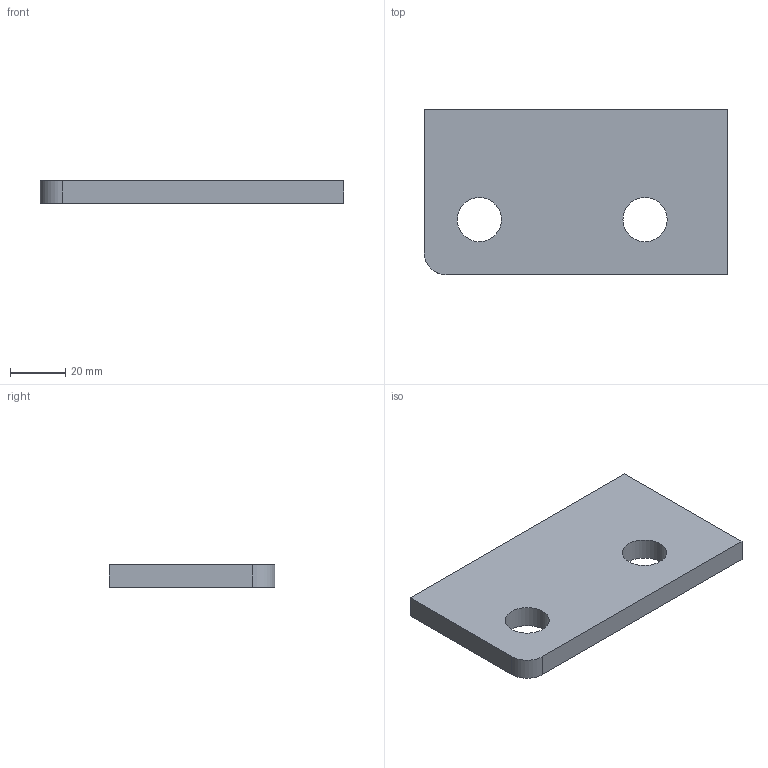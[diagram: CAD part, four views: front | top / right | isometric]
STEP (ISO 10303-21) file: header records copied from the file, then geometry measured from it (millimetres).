
FILE_DESCRIPTION(/* description */ (''),/* implementation_level */ '2;1');
FILE_NAME(/* name */ 'Pos155-Plaatwerk D= 8-S235JRG2-6st',/* time_stamp */ '2024-08-06T13:37:43+02:00',/* author */ (''),/* organization */ (''),/* preprocessor_version */ 'ST-DEVELOPER v16.5',/* originating_system */ 'HiCAD 2024 2901.2 Build 361',/* authorisation */ '');
FILE_SCHEMA (('AUTOMOTIVE_DESIGN { 1 0 10303 214 1 1 1 1 }'));
Length unit declared in the file: millimetre
Products named in the file (1): Pos155-Plaatwerk D= 8-S235JRG2-6st
Bounding box: 110 x 60 x 8 mm (x, y, z)
Volume: 49473.1 mm3; surface area: 15865.1 mm2
Topology: 1 solids, 1 shells, 9 faces, 23 edges, 16 vertices
Faces by surface type: plane 6, cylinder 3
Full cylindrical faces by diameter (mm): 16 x2
Entity records: 467 total; most frequent: DIRECTION 43, CARTESIAN_POINT 42, PRESENTATION_STYLE_ASSIGNMENT 39, COLOUR_RGB 39, DRAUGHTING_PRE_DEFINED_CURVE_FONT 38, CURVE_STYLE 38, OVER_RIDING_STYLED_ITEM 38, ORIENTED_EDGE 38
